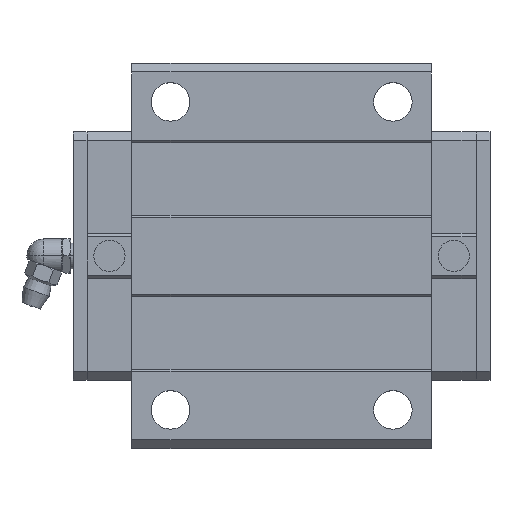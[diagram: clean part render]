
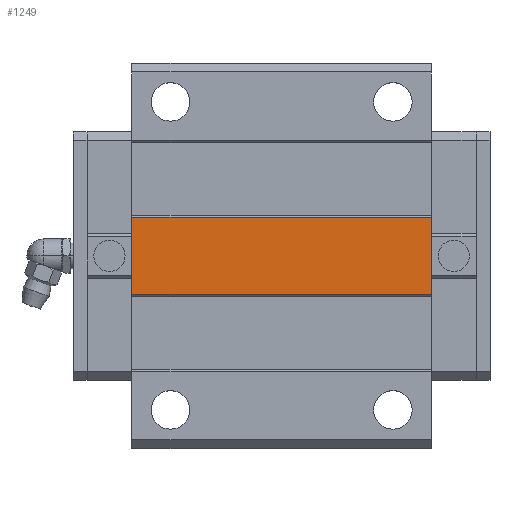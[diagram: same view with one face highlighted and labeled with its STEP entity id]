
A CAD part, top view. The second image highlights one B-rep face of the part: STEP entity #1249.
In plain terms, the highlighted planar face has unit normal (0, 0, 1).
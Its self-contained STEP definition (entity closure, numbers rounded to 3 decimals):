
#1188=CARTESIAN_POINT('POINT83',(83.7,-9.,
   36.));
#1189=VERTEX_POINT('VERTEX83',#1188);
#1196=CARTESIAN_POINT('POINT84',(13.7,-9.,
   36.));
#1197=VERTEX_POINT('VERTEX84',#1196);
#1198=CARTESIAN_POINT('POS117',(13.7,-9.,
   36.));
#1199=DIRECTION('DIR165',(1.,0.,0.));
#1200=VECTOR('VEC69',#1199,1.);
#1201=LINE('STRAIGHT69',#1198,#1200);
#1202=EDGE_CURVE('EDGE112',#1197,#1189,#1201,.T.);
#1219=CARTESIAN_POINT('POINT85',(83.7,9.,36.));
#1220=VERTEX_POINT('VERTEX85',#1219);
#1221=CARTESIAN_POINT('POS120',(83.7,0.,36.));
#1222=DIRECTION('DIR169',(0.,1.,0.));
#1223=VECTOR('VEC71',#1222,1.);
#1224=LINE('STRAIGHT71',#1221,#1223);
#1225=EDGE_CURVE('EDGE114',#1189,#1220,#1224,.T.);
#1226=ORIENTED_EDGE('COEDGE171',*,*,#1225,.T.);
#1227=CARTESIAN_POINT('POINT86',(13.7,9.,36.));
#1228=VERTEX_POINT('VERTEX86',#1227);
#1229=CARTESIAN_POINT('POS121',(13.7,9.,36.));
#1230=DIRECTION('DIR170',(1.,0.,0.));
#1231=VECTOR('VEC72',#1230,1.);
#1232=LINE('STRAIGHT72',#1229,#1231);
#1233=EDGE_CURVE('EDGE115',#1228,#1220,#1232,.T.);
#1234=ORIENTED_EDGE('COEDGE172',*,*,#1233,.F.);
#1235=CARTESIAN_POINT('POS122',(13.7,0.,36.));
#1236=DIRECTION('DIR171',(0.,1.,0.));
#1237=VECTOR('VEC73',#1236,1.);
#1238=LINE('STRAIGHT73',#1235,#1237);
#1239=EDGE_CURVE('EDGE116',#1197,#1228,#1238,.T.);
#1240=ORIENTED_EDGE('COEDGE173',*,*,#1239,.F.);
#1241=ORIENTED_EDGE('COEDGE174',*,*,#1202,.T.);
#1242=EDGE_LOOP('NONE',(#1226,#1234,#1240,#1241));
#1243=FACE_BOUND('LOOP1',#1242,.T.);
#1244=CARTESIAN_POINT('POS123',(13.7,0.,36.));
#1245=DIRECTION('DIR172',(0.,0.,1.));
#1246=DIRECTION('DIR173',(1.,0.,0.));
#1247=AXIS2_PLACEMENT_3D('AXIS50',#1244,#1245,#1246);
#1248=PLANE('PLANE16',#1247);
#1249=ADVANCED_FACE('FACE34',(#1243),#1248,.T.);
